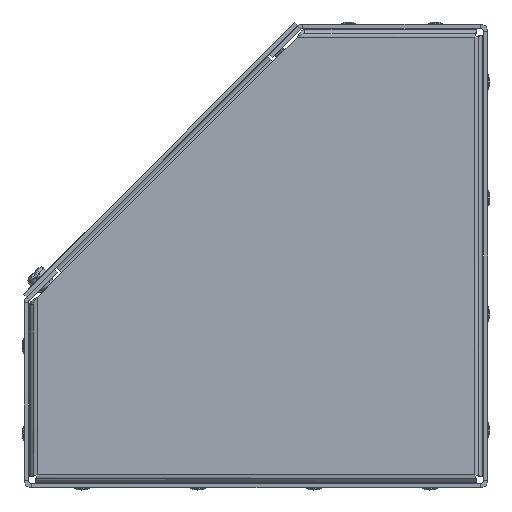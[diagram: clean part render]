
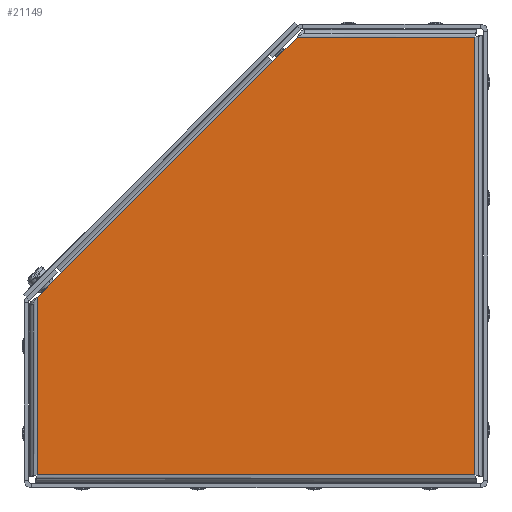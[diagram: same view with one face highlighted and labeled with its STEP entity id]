
A CAD part, left-side view. The second image highlights one B-rep face of the part: STEP entity #21149.
In plain terms, the highlighted planar face has unit normal (-1, 0, 0) as drawn and (1, 0, 0) by its records, which use the part's own axes.
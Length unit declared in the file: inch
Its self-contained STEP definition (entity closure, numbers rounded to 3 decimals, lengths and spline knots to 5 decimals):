
#176 = AXIS2_PLACEMENT_3D ( 'NONE', #15604, #17311, #6955 ) ;
#1282 = CARTESIAN_POINT ( 'NONE',  ( 0., 3.065, 0. ) ) ;
#1449 = VERTEX_POINT ( 'NONE', #7943 ) ;
#1580 = CARTESIAN_POINT ( 'NONE',  ( 0., 3.065, 0. ) ) ;
#1608 = CARTESIAN_POINT ( 'NONE',  ( 0., 7.553, -7.553 ) ) ;
#3444 = VECTOR ( 'NONE', #10049, 39.37008 ) ;
#3744 = EDGE_CURVE ( 'NONE', #14665, #5298, #6788, .T. ) ;
#4116 = VERTEX_POINT ( 'NONE', #14916 ) ;
#4214 = EDGE_CURVE ( 'NONE', #4116, #1449, #13046, .T. ) ;
#4542 = DIRECTION ( 'NONE',  ( 0., -0.707, 0.707 ) ) ;
#4799 = CARTESIAN_POINT ( 'NONE',  ( 0., 0., 0. ) ) ;
#4913 = VECTOR ( 'NONE', #15207, 39.37008 ) ;
#5053 = EDGE_CURVE ( 'NONE', #15489, #7115, #19799, .T. ) ;
#5298 = VERTEX_POINT ( 'NONE', #20178 ) ;
#5815 = CARTESIAN_POINT ( 'NONE',  ( 0., 7.553, -7.553 ) ) ;
#6381 = EDGE_CURVE ( 'NONE', #12514, #15489, #11154, .T. ) ;
#6788 = LINE ( 'NONE', #5815, #20111 ) ;
#6955 = DIRECTION ( 'NONE',  ( 0., 0., -1. ) ) ;
#6981 = LINE ( 'NONE', #20482, #3444 ) ;
#7115 = VERTEX_POINT ( 'NONE', #1580 ) ;
#7305 = EDGE_LOOP ( 'NONE', ( #16598, #8494, #21902, #14436, #13602, #10015, #19875 ) ) ;
#7943 = CARTESIAN_POINT ( 'NONE',  ( 0., 0., -7.553 ) ) ;
#8494 = ORIENTED_EDGE ( 'NONE', *, *, #4214, .T. ) ;
#8901 = VECTOR ( 'NONE', #16950, 39.37008 ) ;
#9214 = CARTESIAN_POINT ( 'NONE',  ( 0., 7.553, -4.488 ) ) ;
#9691 = CARTESIAN_POINT ( 'NONE',  ( 0., 7.12874, -4.06374 ) ) ;
#10015 = ORIENTED_EDGE ( 'NONE', *, *, #6381, .T. ) ;
#10049 = DIRECTION ( 'NONE',  ( 0., 1., 0. ) ) ;
#10579 = VECTOR ( 'NONE', #4542, 39.37008 ) ;
#10813 = VECTOR ( 'NONE', #20284, 39.37008 ) ;
#11154 = LINE ( 'NONE', #9691, #10579 ) ;
#11280 = CARTESIAN_POINT ( 'NONE',  ( 0., 7.12874, -4.06374 ) ) ;
#11792 = FACE_OUTER_BOUND ( 'NONE', #7305, .T. ) ;
#12514 = VERTEX_POINT ( 'NONE', #11280 ) ;
#12600 = EDGE_CURVE ( 'NONE', #5298, #12514, #20064, .T. ) ;
#13046 = LINE ( 'NONE', #4799, #8901 ) ;
#13602 = ORIENTED_EDGE ( 'NONE', *, *, #12600, .T. ) ;
#13853 = PLANE ( 'NONE',  #176 ) ;
#14436 = ORIENTED_EDGE ( 'NONE', *, *, #3744, .T. ) ;
#14665 = VERTEX_POINT ( 'NONE', #1608 ) ;
#14916 = CARTESIAN_POINT ( 'NONE',  ( 0., 0., 0. ) ) ;
#15207 = DIRECTION ( 'NONE',  ( 0., -1., 0. ) ) ;
#15489 = VERTEX_POINT ( 'NONE', #18118 ) ;
#15604 = CARTESIAN_POINT ( 'NONE',  ( 0., 0., 0. ) ) ;
#16202 = DIRECTION ( 'NONE',  ( 0., 0., 1. ) ) ;
#16598 = ORIENTED_EDGE ( 'NONE', *, *, #22229, .T. ) ;
#16950 = DIRECTION ( 'NONE',  ( 0., 0., -1. ) ) ;
#17311 = DIRECTION ( 'NONE',  ( 1., 0., 0. ) ) ;
#17845 = EDGE_CURVE ( 'NONE', #1449, #14665, #6981, .T. ) ;
#17869 = DIRECTION ( 'NONE',  ( 0., -0.707, 0.707 ) ) ;
#18118 = CARTESIAN_POINT ( 'NONE',  ( 0., 3.48926, -0.42426 ) ) ;
#18523 = CARTESIAN_POINT ( 'NONE',  ( 0., 7.553, -4.488 ) ) ;
#18789 = LINE ( 'NONE', #1282, #4913 ) ;
#19233 = VECTOR ( 'NONE', #17869, 39.37008 ) ;
#19799 = LINE ( 'NONE', #9214, #19233 ) ;
#19875 = ORIENTED_EDGE ( 'NONE', *, *, #5053, .T. ) ;
#20064 = LINE ( 'NONE', #18523, #10813 ) ;
#20111 = VECTOR ( 'NONE', #16202, 39.37008 ) ;
#20178 = CARTESIAN_POINT ( 'NONE',  ( 0., 7.553, -4.488 ) ) ;
#20284 = DIRECTION ( 'NONE',  ( 0., -0.707, 0.707 ) ) ;
#20482 = CARTESIAN_POINT ( 'NONE',  ( 0., 0., -7.553 ) ) ;
#21149 = ADVANCED_FACE ( 'NONE', ( #11792 ), #13853, .T. ) ;
#21902 = ORIENTED_EDGE ( 'NONE', *, *, #17845, .T. ) ;
#22229 = EDGE_CURVE ( 'NONE', #7115, #4116, #18789, .T. ) ;
